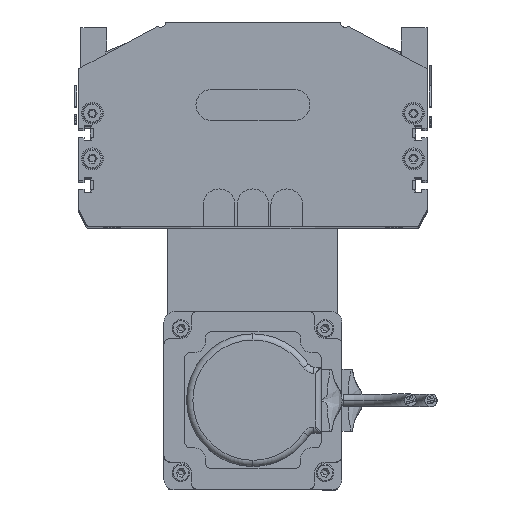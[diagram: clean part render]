
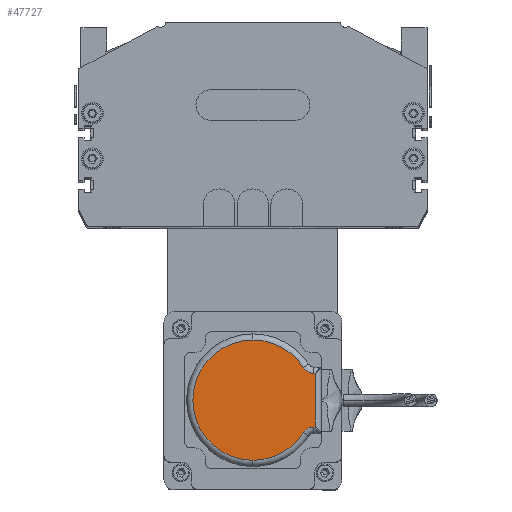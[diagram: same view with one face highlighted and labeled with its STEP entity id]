
A CAD part, top view. The second image highlights one B-rep face of the part: STEP entity #47727.
In plain terms, the highlighted planar face has unit normal (0, 0, 1).
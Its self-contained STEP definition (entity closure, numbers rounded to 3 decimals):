
#47653 = VERTEX_POINT ( 'NONE', #68900 ) ;
#47724 = VERTEX_POINT ( 'NONE', #69013 ) ;
#47725 = ORIENTED_EDGE ( 'NONE', *, *, #47838, .T. ) ;
#47726 = VERTEX_POINT ( 'NONE', #69011 ) ;
#47727 = ADVANCED_FACE ( 'NONE', ( #69010 ), #68981, .T. ) ;
#47728 = ORIENTED_EDGE ( 'NONE', *, *, #47788, .T. ) ;
#47730 = VERTEX_POINT ( 'NONE', #69008 ) ;
#47731 = EDGE_CURVE ( 'NONE', #47785, #47724, #69001, .T. ) ;
#47733 = ORIENTED_EDGE ( 'NONE', *, *, #47765, .T. ) ;
#47734 = EDGE_CURVE ( 'NONE', #47653, #47746, #68998, .T. ) ;
#47736 = VERTEX_POINT ( 'NONE', #68744 ) ;
#47737 = ORIENTED_EDGE ( 'NONE', *, *, #47734, .T. ) ;
#47738 = EDGE_CURVE ( 'NONE', #47726, #47746, #68521, .T. ) ;
#47746 = VERTEX_POINT ( 'NONE', #69109 ) ;
#47760 = ORIENTED_EDGE ( 'NONE', *, *, #47731, .F. ) ;
#47765 = EDGE_CURVE ( 'NONE', #47790, #47653, #69112, .T. ) ;
#47785 = VERTEX_POINT ( 'NONE', #69124 ) ;
#47788 = EDGE_CURVE ( 'NONE', #47785, #47790, #69120, .T. ) ;
#47790 = VERTEX_POINT ( 'NONE', #69119 ) ;
#47837 = ORIENTED_EDGE ( 'NONE', *, *, #47738, .F. ) ;
#47838 = EDGE_CURVE ( 'NONE', #47726, #47736, #69183, .T. ) ;
#47839 = EDGE_CURVE ( 'NONE', #47736, #47730, #69232, .T. ) ;
#47840 = ORIENTED_EDGE ( 'NONE', *, *, #47839, .T. ) ;
#47841 = EDGE_CURVE ( 'NONE', #47730, #47724, #69227, .T. ) ;
#47843 = ORIENTED_EDGE ( 'NONE', *, *, #47841, .T. ) ;
#47846 = EDGE_LOOP ( 'NONE', ( #47760, #47728, #47733, #47737, #47837, #47725, #47840, #47843 ) ) ;
#68502 = CARTESIAN_POINT ( 'NONE',  ( 52., 62.394, 26. ) ) ;
#68509 = AXIS2_PLACEMENT_3D ( 'NONE', #68502, #68519, #68511 ) ;
#68511 = DIRECTION ( 'NONE',  ( 1., 0., 0. ) ) ;
#68519 = DIRECTION ( 'NONE',  ( 0., 0., 1. ) ) ;
#68521 = CIRCLE ( 'NONE', #68509, 6. ) ;
#68744 = CARTESIAN_POINT ( 'NONE',  ( 46., 63., 26. ) ) ;
#68900 = CARTESIAN_POINT ( 'NONE',  ( 62., 33., 26. ) ) ;
#68964 = CARTESIAN_POINT ( 'NONE',  ( 33., 33., 26. ) ) ;
#68971 = AXIS2_PLACEMENT_3D ( 'NONE', #68964, #69002, #69000 ) ;
#68981 = PLANE ( 'NONE',  #68971 ) ;
#68989 = DIRECTION ( 'NONE',  ( 1., 0., 0. ) ) ;
#68990 = DIRECTION ( 'NONE',  ( 0., 0., 1. ) ) ;
#68991 = AXIS2_PLACEMENT_3D ( 'NONE', #68999, #68990, #68989 ) ;
#68993 = DIRECTION ( 'NONE',  ( 1., 0., 0. ) ) ;
#68994 = DIRECTION ( 'NONE',  ( 0., 0., 1. ) ) ;
#68995 = CARTESIAN_POINT ( 'NONE',  ( 14., 62.394, 26. ) ) ;
#68998 = CIRCLE ( 'NONE', #68991, 29. ) ;
#68999 = CARTESIAN_POINT ( 'NONE',  ( 33., 33., 26. ) ) ;
#69000 = DIRECTION ( 'NONE',  ( 1., 0., 0. ) ) ;
#69001 = CIRCLE ( 'NONE', #69012, 6. ) ;
#69002 = DIRECTION ( 'NONE',  ( 0., 0., 1. ) ) ;
#69008 = CARTESIAN_POINT ( 'NONE',  ( 20., 63., 26. ) ) ;
#69010 = FACE_OUTER_BOUND ( 'NONE', #47846, .T. ) ;
#69011 = CARTESIAN_POINT ( 'NONE',  ( 46., 62.394, 26. ) ) ;
#69012 = AXIS2_PLACEMENT_3D ( 'NONE', #68995, #68994, #68993 ) ;
#69013 = CARTESIAN_POINT ( 'NONE',  ( 20., 62.394, 26. ) ) ;
#69090 = CARTESIAN_POINT ( 'NONE',  ( 33., 33., 26. ) ) ;
#69094 = AXIS2_PLACEMENT_3D ( 'NONE', #69090, #69135, #69134 ) ;
#69109 = CARTESIAN_POINT ( 'NONE',  ( 48.743, 57.355, 26. ) ) ;
#69112 = CIRCLE ( 'NONE', #69094, 29. ) ;
#69114 = DIRECTION ( 'NONE',  ( 1., 0., 0. ) ) ;
#69115 = DIRECTION ( 'NONE',  ( 0., 0., 1. ) ) ;
#69116 = CARTESIAN_POINT ( 'NONE',  ( 33., 33., 26. ) ) ;
#69117 = AXIS2_PLACEMENT_3D ( 'NONE', #69116, #69115, #69114 ) ;
#69119 = CARTESIAN_POINT ( 'NONE',  ( 4., 33., 26. ) ) ;
#69120 = CIRCLE ( 'NONE', #69117, 29. ) ;
#69124 = CARTESIAN_POINT ( 'NONE',  ( 17.257, 57.355, 26. ) ) ;
#69134 = DIRECTION ( 'NONE',  ( 1., 0., 0. ) ) ;
#69135 = DIRECTION ( 'NONE',  ( 0., 0., 1. ) ) ;
#69182 = CARTESIAN_POINT ( 'NONE',  ( 46., 33., 26. ) ) ;
#69183 = LINE ( 'NONE', #69182, #69234 ) ;
#69221 = DIRECTION ( 'NONE',  ( 0., -1., 0. ) ) ;
#69222 = VECTOR ( 'NONE', #69221, 1000. ) ;
#69226 = CARTESIAN_POINT ( 'NONE',  ( 20., 33., 26. ) ) ;
#69227 = LINE ( 'NONE', #69226, #69222 ) ;
#69228 = DIRECTION ( 'NONE',  ( -1., 0., 0. ) ) ;
#69229 = VECTOR ( 'NONE', #69228, 1000. ) ;
#69230 = CARTESIAN_POINT ( 'NONE',  ( 17.5, 63., 26. ) ) ;
#69232 = LINE ( 'NONE', #69230, #69229 ) ;
#69233 = DIRECTION ( 'NONE',  ( 0., 1., 0. ) ) ;
#69234 = VECTOR ( 'NONE', #69233, 1000. ) ;
